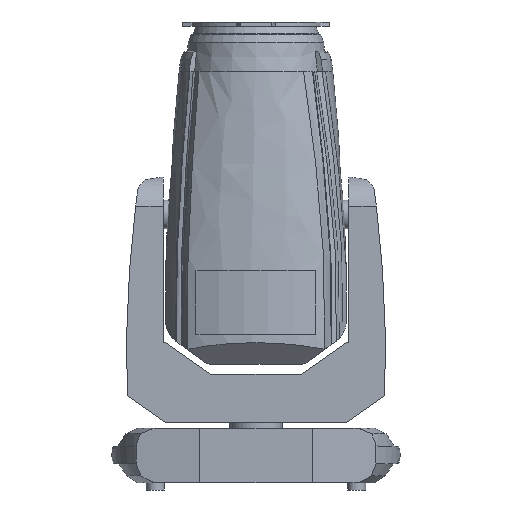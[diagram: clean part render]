
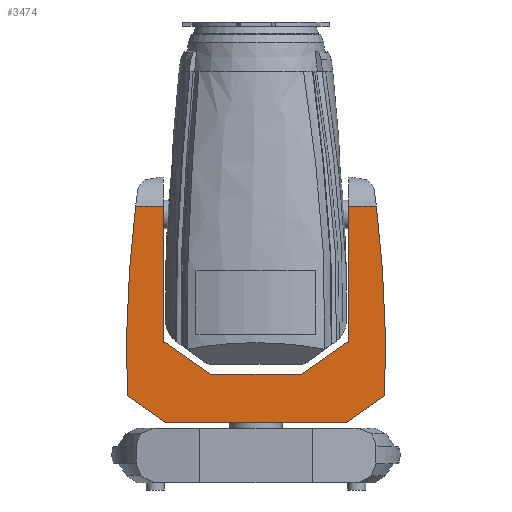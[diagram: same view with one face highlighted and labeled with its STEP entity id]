
A CAD part, left-side view. The second image highlights one B-rep face of the part: STEP entity #3474.
In plain terms, the highlighted planar face has unit normal (-1, 0, 0).
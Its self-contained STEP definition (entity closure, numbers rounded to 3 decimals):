
#454=LINE('',#6969,#666);
#457=LINE('',#7025,#669);
#468=LINE('',#7052,#680);
#469=LINE('',#7054,#681);
#470=LINE('',#7056,#682);
#471=LINE('',#7059,#683);
#472=LINE('',#7061,#684);
#473=LINE('',#7063,#685);
#474=LINE('',#7065,#686);
#475=LINE('',#7067,#687);
#476=LINE('',#7069,#688);
#477=LINE('',#7071,#689);
#666=VECTOR('',#4604,1000.);
#669=VECTOR('',#4625,1000.);
#680=VECTOR('',#4646,1000.);
#681=VECTOR('',#4647,1000.);
#682=VECTOR('',#4648,1000.);
#683=VECTOR('',#4651,1000.);
#684=VECTOR('',#4652,1000.);
#685=VECTOR('',#4653,1000.);
#686=VECTOR('',#4654,1000.);
#687=VECTOR('',#4655,1000.);
#688=VECTOR('',#4656,1000.);
#689=VECTOR('',#4657,1000.);
#1622=ORIENTED_EDGE('',*,*,#2180,.F.);
#1623=ORIENTED_EDGE('',*,*,#2181,.F.);
#1624=ORIENTED_EDGE('',*,*,#2182,.F.);
#1625=ORIENTED_EDGE('',*,*,#2183,.F.);
#1626=ORIENTED_EDGE('',*,*,#2184,.F.);
#1627=ORIENTED_EDGE('',*,*,#2167,.T.);
#1628=ORIENTED_EDGE('',*,*,#2185,.F.);
#1629=ORIENTED_EDGE('',*,*,#2186,.F.);
#1630=ORIENTED_EDGE('',*,*,#2187,.F.);
#1631=ORIENTED_EDGE('',*,*,#2188,.F.);
#1632=ORIENTED_EDGE('',*,*,#2189,.F.);
#1633=ORIENTED_EDGE('',*,*,#2190,.F.);
#1634=ORIENTED_EDGE('',*,*,#2191,.F.);
#1635=ORIENTED_EDGE('',*,*,#2152,.T.);
#2152=EDGE_CURVE('',#2516,#2517,#454,.T.);
#2167=EDGE_CURVE('',#2525,#2531,#457,.T.);
#2180=EDGE_CURVE('',#2542,#2517,#2688,.F.);
#2181=EDGE_CURVE('',#2543,#2542,#468,.T.);
#2182=EDGE_CURVE('',#2544,#2543,#469,.T.);
#2183=EDGE_CURVE('',#2545,#2544,#470,.T.);
#2184=EDGE_CURVE('',#2525,#2545,#2689,.F.);
#2185=EDGE_CURVE('',#2546,#2531,#471,.T.);
#2186=EDGE_CURVE('',#2547,#2546,#472,.T.);
#2187=EDGE_CURVE('',#2548,#2547,#473,.T.);
#2188=EDGE_CURVE('',#2549,#2548,#474,.T.);
#2189=EDGE_CURVE('',#2550,#2549,#475,.T.);
#2190=EDGE_CURVE('',#2551,#2550,#476,.T.);
#2191=EDGE_CURVE('',#2516,#2551,#477,.T.);
#2516=VERTEX_POINT('',#6970);
#2517=VERTEX_POINT('',#6971);
#2525=VERTEX_POINT('',#7006);
#2531=VERTEX_POINT('',#7024);
#2542=VERTEX_POINT('',#7051);
#2543=VERTEX_POINT('',#7053);
#2544=VERTEX_POINT('',#7055);
#2545=VERTEX_POINT('',#7057);
#2546=VERTEX_POINT('',#7060);
#2547=VERTEX_POINT('',#7062);
#2548=VERTEX_POINT('',#7064);
#2549=VERTEX_POINT('',#7066);
#2550=VERTEX_POINT('',#7068);
#2551=VERTEX_POINT('',#7070);
#2688=CIRCLE('',#3830,1876.444);
#2689=CIRCLE('',#3831,1876.444);
#2915=EDGE_LOOP('',(#1622,#1623,#1624,#1625,#1626,#1627,#1628,#1629,#1630,
#1631,#1632,#1633,#1634,#1635));
#3161=FACE_BOUND('',#2915,.T.);
#3278=PLANE('',#3829);
#3474=ADVANCED_FACE('',(#3161),#3278,.T.);
#3829=AXIS2_PLACEMENT_3D('',#7049,#4642,#4643);
#3830=AXIS2_PLACEMENT_3D('',#7050,#4644,#4645);
#3831=AXIS2_PLACEMENT_3D('',#7058,#4649,#4650);
#4604=DIRECTION('',(0.,1.,0.));
#4625=DIRECTION('',(0.,1.,0.));
#4642=DIRECTION('',(-1.,0.,0.));
#4643=DIRECTION('',(0.,0.,1.));
#4644=DIRECTION('',(-1.,0.,0.));
#4645=DIRECTION('',(0.,0.,1.));
#4646=DIRECTION('',(0.,0.819,0.574));
#4647=DIRECTION('',(0.,1.,0.));
#4648=DIRECTION('',(0.,0.819,-0.574));
#4649=DIRECTION('',(-1.,0.,0.));
#4650=DIRECTION('',(0.,0.,1.));
#4651=DIRECTION('',(0.,0.,1.));
#4652=DIRECTION('',(0.,-1.,0.));
#4653=DIRECTION('',(0.,-0.819,0.574));
#4654=DIRECTION('',(0.,-1.,0.));
#4655=DIRECTION('',(0.,-0.819,-0.574));
#4656=DIRECTION('',(0.,-1.,0.));
#4657=DIRECTION('',(0.,0.,-1.));
#6969=CARTESIAN_POINT('',(-57.187,-200.,423.102));
#6970=CARTESIAN_POINT('',(-57.187,142.934,423.102));
#6971=CARTESIAN_POINT('',(-57.187,185.586,423.102));
#7006=CARTESIAN_POINT('',(-57.187,-185.586,423.102));
#7024=CARTESIAN_POINT('',(-57.187,-142.934,423.102));
#7025=CARTESIAN_POINT('',(-57.187,-200.,423.102));
#7049=CARTESIAN_POINT('',(-57.187,-200.,423.102));
#7050=CARTESIAN_POINT('',(-57.187,-1676.744,193.38));
#7051=CARTESIAN_POINT('',(-57.187,198.658,130.826));
#7052=CARTESIAN_POINT('',(-57.187,68.877,39.79));
#7053=CARTESIAN_POINT('',(-57.187,139.663,89.444));
#7054=CARTESIAN_POINT('',(-57.187,-200.,89.444));
#7055=CARTESIAN_POINT('',(-57.187,-139.663,89.444));
#7056=CARTESIAN_POINT('',(-57.187,-336.966,227.843));
#7057=CARTESIAN_POINT('',(-57.187,-198.658,130.826));
#7058=CARTESIAN_POINT('',(-57.187,1676.744,193.38));
#7059=CARTESIAN_POINT('',(-57.187,-142.934,423.102));
#7060=CARTESIAN_POINT('',(-57.187,-142.934,212.808));
#7061=CARTESIAN_POINT('',(-57.187,-200.,212.808));
#7062=CARTESIAN_POINT('',(-57.187,-139.663,212.808));
#7063=CARTESIAN_POINT('',(-57.187,-278.968,310.524));
#7064=CARTESIAN_POINT('',(-57.187,-69.797,163.8));
#7065=CARTESIAN_POINT('',(-57.187,-200.,163.8));
#7066=CARTESIAN_POINT('',(-57.187,69.797,163.8));
#7067=CARTESIAN_POINT('',(-57.187,10.879,122.472));
#7068=CARTESIAN_POINT('',(-57.187,139.663,212.808));
#7069=CARTESIAN_POINT('',(-57.187,-200.,212.808));
#7070=CARTESIAN_POINT('',(-57.187,142.934,212.808));
#7071=CARTESIAN_POINT('',(-57.187,142.934,423.102));
